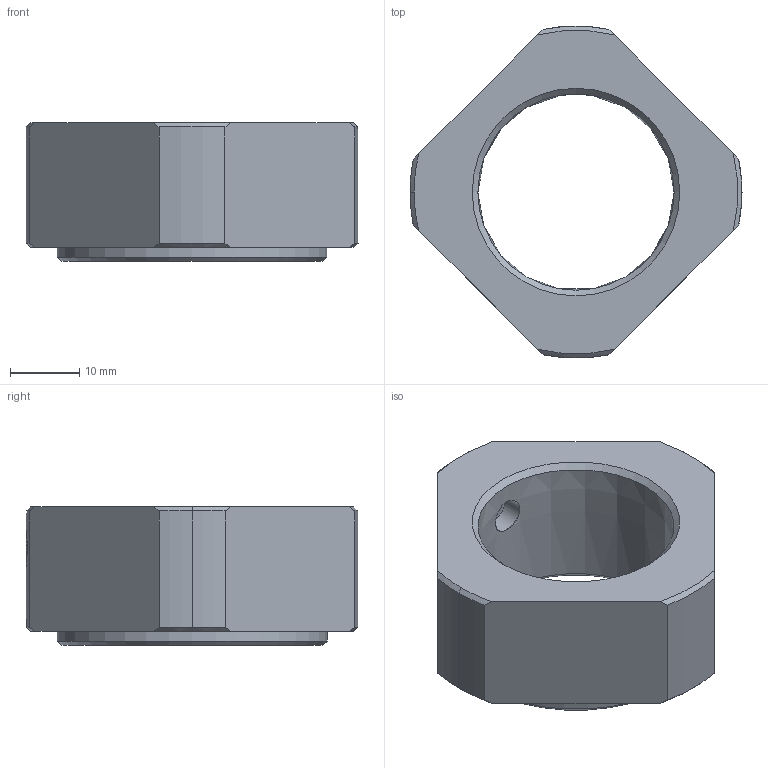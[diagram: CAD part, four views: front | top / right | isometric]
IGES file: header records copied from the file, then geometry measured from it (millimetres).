
Start section: Data from Parasolid IGES Translator 26.0.171, Copyright(c) 2006 Siemens PLM Software. All Rights Reserved.
Global section: file name: RN 30.igs; native system: By Siemens PLM Incorporated; preprocessor: XPlus GENERIC/IGES 26.0.171; author: Noname; organization: Noname; date: 20250611.074220; units: millimetre
Bounding box: 48 x 47.95 x 20 mm (x, y, z)
Surface area: 6329.2 mm2 (no closed solid volume)
Topology: 0 solids, 0 shells, 39 faces, 204 edges, 203 vertices
Faces by surface type: revolution 23, extrusion 16
